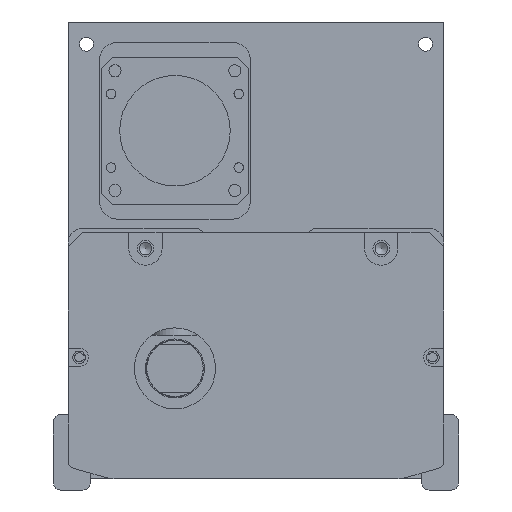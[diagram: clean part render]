
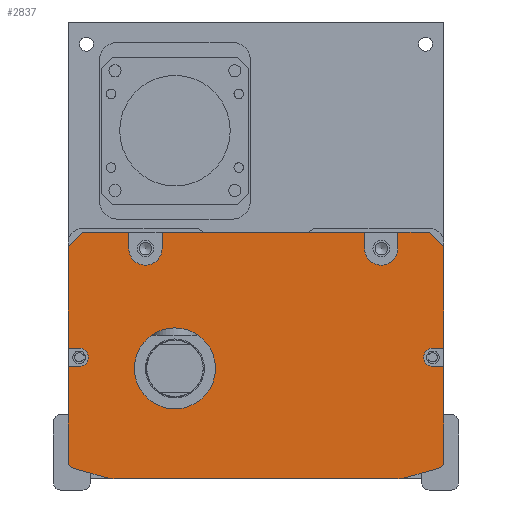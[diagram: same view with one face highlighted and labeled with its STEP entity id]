
A CAD part, front view. The second image highlights one B-rep face of the part: STEP entity #2837.
In plain terms, the highlighted planar face has unit normal (0, -1, 0).
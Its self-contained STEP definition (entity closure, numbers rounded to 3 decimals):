
#943=LINE('',#18069,#1709);
#944=LINE('',#18072,#1710);
#945=LINE('',#18074,#1711);
#946=LINE('',#18076,#1712);
#947=LINE('',#18080,#1713);
#948=LINE('',#18082,#1714);
#949=LINE('',#18084,#1715);
#950=LINE('',#18088,#1716);
#951=LINE('',#18090,#1717);
#952=LINE('',#18092,#1718);
#953=LINE('',#18094,#1719);
#954=LINE('',#18096,#1720);
#955=LINE('',#18100,#1721);
#956=LINE('',#18102,#1722);
#957=LINE('',#18106,#1723);
#958=LINE('',#18110,#1724);
#959=LINE('',#18114,#1725);
#960=LINE('',#18118,#1726);
#961=LINE('',#18120,#1727);
#962=LINE('',#18124,#1728);
#1709=VECTOR('',#14305,1.);
#1710=VECTOR('',#14306,1.);
#1711=VECTOR('',#14307,1.);
#1712=VECTOR('',#14308,1.);
#1713=VECTOR('',#14311,1.);
#1714=VECTOR('',#14312,1.);
#1715=VECTOR('',#14313,1.);
#1716=VECTOR('',#14316,1.);
#1717=VECTOR('',#14317,1.);
#1718=VECTOR('',#14318,1.);
#1719=VECTOR('',#14319,1.);
#1720=VECTOR('',#14320,1.);
#1721=VECTOR('',#14323,1.);
#1722=VECTOR('',#14324,1.);
#1723=VECTOR('',#14327,1.);
#1724=VECTOR('',#14330,1.);
#1725=VECTOR('',#14333,1.);
#1726=VECTOR('',#14336,1.);
#1727=VECTOR('',#14337,1.);
#1728=VECTOR('',#14340,1.);
#2837=ADVANCED_FACE('',(#3890,#3891),#3594,.F.);
#3594=PLANE('',#12678);
#3890=FACE_BOUND('',#4500,.T.);
#3891=FACE_BOUND('',#4501,.T.);
#4500=EDGE_LOOP('',(#5713,#5714,#5715,#5716,#5717,#5718,#5719,#5720,#5721,
#5722,#5723,#5724,#5725,#5726,#5727,#5728,#5729,#5730,#5731,#5732,#5733,
#5734,#5735,#5736,#5737,#5738,#5739,#5740));
#4501=EDGE_LOOP('',(#5741));
#5713=ORIENTED_EDGE('',*,*,#10318,.T.);
#5714=ORIENTED_EDGE('',*,*,#10319,.T.);
#5715=ORIENTED_EDGE('',*,*,#10320,.T.);
#5716=ORIENTED_EDGE('',*,*,#10321,.F.);
#5717=ORIENTED_EDGE('',*,*,#10322,.T.);
#5718=ORIENTED_EDGE('',*,*,#10323,.F.);
#5719=ORIENTED_EDGE('',*,*,#10324,.T.);
#5720=ORIENTED_EDGE('',*,*,#10325,.F.);
#5721=ORIENTED_EDGE('',*,*,#10326,.T.);
#5722=ORIENTED_EDGE('',*,*,#10327,.F.);
#5723=ORIENTED_EDGE('',*,*,#10328,.T.);
#5724=ORIENTED_EDGE('',*,*,#10329,.T.);
#5725=ORIENTED_EDGE('',*,*,#10330,.T.);
#5726=ORIENTED_EDGE('',*,*,#10331,.T.);
#5727=ORIENTED_EDGE('',*,*,#10332,.T.);
#5728=ORIENTED_EDGE('',*,*,#10333,.T.);
#5729=ORIENTED_EDGE('',*,*,#10334,.T.);
#5730=ORIENTED_EDGE('',*,*,#10335,.T.);
#5731=ORIENTED_EDGE('',*,*,#10336,.T.);
#5732=ORIENTED_EDGE('',*,*,#10337,.T.);
#5733=ORIENTED_EDGE('',*,*,#10338,.T.);
#5734=ORIENTED_EDGE('',*,*,#10339,.T.);
#5735=ORIENTED_EDGE('',*,*,#10340,.T.);
#5736=ORIENTED_EDGE('',*,*,#10341,.T.);
#5737=ORIENTED_EDGE('',*,*,#10342,.T.);
#5738=ORIENTED_EDGE('',*,*,#10343,.T.);
#5739=ORIENTED_EDGE('',*,*,#10344,.T.);
#5740=ORIENTED_EDGE('',*,*,#10345,.T.);
#5741=ORIENTED_EDGE('',*,*,#10346,.T.);
#9110=VERTEX_POINT('',#18070);
#9111=VERTEX_POINT('',#18071);
#9112=VERTEX_POINT('',#18073);
#9113=VERTEX_POINT('',#18075);
#9114=VERTEX_POINT('',#18077);
#9115=VERTEX_POINT('',#18079);
#9116=VERTEX_POINT('',#18081);
#9117=VERTEX_POINT('',#18083);
#9118=VERTEX_POINT('',#18085);
#9119=VERTEX_POINT('',#18087);
#9120=VERTEX_POINT('',#18089);
#9121=VERTEX_POINT('',#18091);
#9122=VERTEX_POINT('',#18093);
#9123=VERTEX_POINT('',#18095);
#9124=VERTEX_POINT('',#18097);
#9125=VERTEX_POINT('',#18099);
#9126=VERTEX_POINT('',#18101);
#9127=VERTEX_POINT('',#18103);
#9128=VERTEX_POINT('',#18105);
#9129=VERTEX_POINT('',#18107);
#9130=VERTEX_POINT('',#18109);
#9131=VERTEX_POINT('',#18111);
#9132=VERTEX_POINT('',#18113);
#9133=VERTEX_POINT('',#18115);
#9134=VERTEX_POINT('',#18117);
#9135=VERTEX_POINT('',#18119);
#9136=VERTEX_POINT('',#18121);
#9137=VERTEX_POINT('',#18123);
#9138=VERTEX_POINT('',#18126);
#10318=EDGE_CURVE('',#9110,#9111,#943,.T.);
#10319=EDGE_CURVE('',#9111,#9112,#944,.T.);
#10320=EDGE_CURVE('',#9112,#9113,#945,.T.);
#10321=EDGE_CURVE('',#9114,#9113,#946,.T.);
#10322=EDGE_CURVE('',#9114,#9115,#11934,.T.);
#10323=EDGE_CURVE('',#9116,#9115,#947,.T.);
#10324=EDGE_CURVE('',#9116,#9117,#948,.T.);
#10325=EDGE_CURVE('',#9118,#9117,#949,.T.);
#10326=EDGE_CURVE('',#9118,#9119,#11935,.T.);
#10327=EDGE_CURVE('',#9120,#9119,#950,.T.);
#10328=EDGE_CURVE('',#9120,#9121,#951,.T.);
#10329=EDGE_CURVE('',#9121,#9122,#952,.T.);
#10330=EDGE_CURVE('',#9122,#9123,#953,.T.);
#10331=EDGE_CURVE('',#9123,#9124,#954,.T.);
#10332=EDGE_CURVE('',#9124,#9125,#11936,.T.);
#10333=EDGE_CURVE('',#9125,#9126,#955,.T.);
#10334=EDGE_CURVE('',#9126,#9127,#956,.T.);
#10335=EDGE_CURVE('',#9127,#9128,#11937,.T.);
#10336=EDGE_CURVE('',#9128,#9129,#957,.T.);
#10337=EDGE_CURVE('',#9129,#9130,#11938,.T.);
#10338=EDGE_CURVE('',#9130,#9131,#958,.T.);
#10339=EDGE_CURVE('',#9131,#9132,#11939,.T.);
#10340=EDGE_CURVE('',#9132,#9133,#959,.T.);
#10341=EDGE_CURVE('',#9133,#9134,#11940,.T.);
#10342=EDGE_CURVE('',#9134,#9135,#960,.T.);
#10343=EDGE_CURVE('',#9135,#9136,#961,.T.);
#10344=EDGE_CURVE('',#9136,#9137,#11941,.T.);
#10345=EDGE_CURVE('',#9137,#9110,#962,.T.);
#10346=EDGE_CURVE('',#9138,#9138,#11942,.T.);
#11934=CIRCLE('',#12669,4.5);
#11935=CIRCLE('',#12670,4.5);
#11936=CIRCLE('',#12671,2.5);
#11937=CIRCLE('',#12672,2.);
#11938=CIRCLE('',#12673,10.);
#11939=CIRCLE('',#12674,10.);
#11940=CIRCLE('',#12675,2.);
#11941=CIRCLE('',#12676,2.5);
#11942=CIRCLE('',#12677,11.);
#12669=AXIS2_PLACEMENT_3D('',#18078,#14309,#14310);
#12670=AXIS2_PLACEMENT_3D('',#18086,#14314,#14315);
#12671=AXIS2_PLACEMENT_3D('',#18098,#14321,#14322);
#12672=AXIS2_PLACEMENT_3D('',#18104,#14325,#14326);
#12673=AXIS2_PLACEMENT_3D('',#18108,#14328,#14329);
#12674=AXIS2_PLACEMENT_3D('',#18112,#14331,#14332);
#12675=AXIS2_PLACEMENT_3D('',#18116,#14334,#14335);
#12676=AXIS2_PLACEMENT_3D('',#18122,#14338,#14339);
#12677=AXIS2_PLACEMENT_3D('',#18125,#14341,#14342);
#12678=AXIS2_PLACEMENT_3D('',#18127,#14343,#14344);
#14305=DIRECTION('',(0.,0.,1.));
#14306=DIRECTION('',(-0.707,0.,0.707));
#14307=DIRECTION('',(-1.,0.,0.));
#14308=DIRECTION('',(0.,0.,1.));
#14309=DIRECTION('',(0.,1.,0.));
#14310=DIRECTION('',(0.,0.,1.));
#14311=DIRECTION('',(0.,0.,-1.));
#14312=DIRECTION('',(-1.,0.,0.));
#14313=DIRECTION('',(0.,0.,1.));
#14314=DIRECTION('',(0.,1.,0.));
#14315=DIRECTION('',(0.,0.,1.));
#14316=DIRECTION('',(0.,0.,-1.));
#14317=DIRECTION('',(-1.,0.,0.));
#14318=DIRECTION('',(-0.707,0.,-0.707));
#14319=DIRECTION('',(0.,0.,-1.));
#14320=DIRECTION('',(1.,0.,0.));
#14321=DIRECTION('',(0.,1.,0.));
#14322=DIRECTION('',(0.,0.,1.));
#14323=DIRECTION('',(-1.,0.,0.));
#14324=DIRECTION('',(0.,0.,-1.));
#14325=DIRECTION('',(0.,-1.,0.));
#14326=DIRECTION('',(0.,0.,1.));
#14327=DIRECTION('',(0.963,0.,-0.269));
#14328=DIRECTION('',(0.,-1.,0.));
#14329=DIRECTION('',(0.,0.,1.));
#14330=DIRECTION('',(1.,0.,0.));
#14331=DIRECTION('',(0.,-1.,0.));
#14332=DIRECTION('',(0.,0.,-1.));
#14333=DIRECTION('',(0.963,0.,0.269));
#14334=DIRECTION('',(0.,-1.,0.));
#14335=DIRECTION('',(0.,0.,-1.));
#14336=DIRECTION('',(0.,0.,1.));
#14337=DIRECTION('',(-1.,0.,0.));
#14338=DIRECTION('',(0.,1.,0.));
#14339=DIRECTION('',(0.,0.,1.));
#14340=DIRECTION('',(1.,0.,0.));
#14341=DIRECTION('',(0.,1.,0.));
#14342=DIRECTION('',(0.,0.,1.));
#14343=DIRECTION('',(0.,1.,0.));
#14344=DIRECTION('',(-1.,0.,0.));
#18069=CARTESIAN_POINT('',(47.808,32.5,-1.));
#18070=CARTESIAN_POINT('',(47.808,32.5,-32.5));
#18071=CARTESIAN_POINT('',(47.808,32.5,-5.));
#18072=CARTESIAN_POINT('',(43.808,32.5,-1.));
#18073=CARTESIAN_POINT('',(43.808,32.5,-1.));
#18074=CARTESIAN_POINT('',(-3.192,32.5,-1.));
#18075=CARTESIAN_POINT('',(35.308,32.5,-1.));
#18076=CARTESIAN_POINT('',(35.308,32.5,-1.));
#18077=CARTESIAN_POINT('',(35.308,32.5,-5.5));
#18078=CARTESIAN_POINT('',(30.808,32.5,-5.5));
#18079=CARTESIAN_POINT('',(26.308,32.5,-5.5));
#18080=CARTESIAN_POINT('',(26.308,32.5,-1.));
#18081=CARTESIAN_POINT('',(26.308,32.5,-1.));
#18082=CARTESIAN_POINT('',(-54.192,32.5,-1.));
#18083=CARTESIAN_POINT('',(-28.692,32.5,-1.));
#18084=CARTESIAN_POINT('',(-28.692,32.5,-3.5));
#18085=CARTESIAN_POINT('',(-28.692,32.5,-5.5));
#18086=CARTESIAN_POINT('',(-33.192,32.5,-5.5));
#18087=CARTESIAN_POINT('',(-37.692,32.5,-5.5));
#18088=CARTESIAN_POINT('',(-37.692,32.5,-1.));
#18089=CARTESIAN_POINT('',(-37.692,32.5,-1.));
#18090=CARTESIAN_POINT('',(-54.192,32.5,-1.));
#18091=CARTESIAN_POINT('',(-50.192,32.5,-1.));
#18092=CARTESIAN_POINT('',(-54.192,32.5,-5.));
#18093=CARTESIAN_POINT('',(-54.192,32.5,-5.));
#18094=CARTESIAN_POINT('',(-54.192,32.5,-62.));
#18095=CARTESIAN_POINT('',(-54.192,32.5,-32.5));
#18096=CARTESIAN_POINT('',(-3.192,32.5,-32.5));
#18097=CARTESIAN_POINT('',(-51.192,32.5,-32.5));
#18098=CARTESIAN_POINT('',(-51.192,32.5,-35.));
#18099=CARTESIAN_POINT('',(-51.192,32.5,-37.5));
#18100=CARTESIAN_POINT('',(-3.192,32.5,-37.5));
#18101=CARTESIAN_POINT('',(-54.192,32.5,-37.5));
#18102=CARTESIAN_POINT('',(-54.192,32.5,-62.));
#18103=CARTESIAN_POINT('',(-54.192,32.5,-63.212));
#18104=CARTESIAN_POINT('',(-52.192,32.5,-63.212));
#18105=CARTESIAN_POINT('',(-52.731,32.5,-65.138));
#18106=CARTESIAN_POINT('',(-55.807,32.5,-64.279));
#18107=CARTESIAN_POINT('',(-43.809,32.5,-67.631));
#18108=CARTESIAN_POINT('',(-41.118,32.5,-58.));
#18109=CARTESIAN_POINT('',(-41.118,32.5,-68.));
#18110=CARTESIAN_POINT('',(-54.692,32.5,-68.));
#18111=CARTESIAN_POINT('',(34.733,32.5,-68.));
#18112=CARTESIAN_POINT('',(34.733,32.5,-58.));
#18113=CARTESIAN_POINT('',(37.424,32.5,-67.631));
#18114=CARTESIAN_POINT('',(49.422,32.5,-64.279));
#18115=CARTESIAN_POINT('',(46.346,32.5,-65.138));
#18116=CARTESIAN_POINT('',(45.808,32.5,-63.212));
#18117=CARTESIAN_POINT('',(47.808,32.5,-63.212));
#18118=CARTESIAN_POINT('',(47.808,32.5,-1.));
#18119=CARTESIAN_POINT('',(47.808,32.5,-37.5));
#18120=CARTESIAN_POINT('',(-3.192,32.5,-37.5));
#18121=CARTESIAN_POINT('',(44.808,32.5,-37.5));
#18122=CARTESIAN_POINT('',(44.808,32.5,-35.));
#18123=CARTESIAN_POINT('',(44.808,32.5,-32.5));
#18124=CARTESIAN_POINT('',(-3.192,32.5,-32.5));
#18125=CARTESIAN_POINT('',(-25.192,32.5,-38.));
#18126=CARTESIAN_POINT('',(-25.192,32.5,-27.));
#18127=CARTESIAN_POINT('',(-3.192,32.5,-1.));
